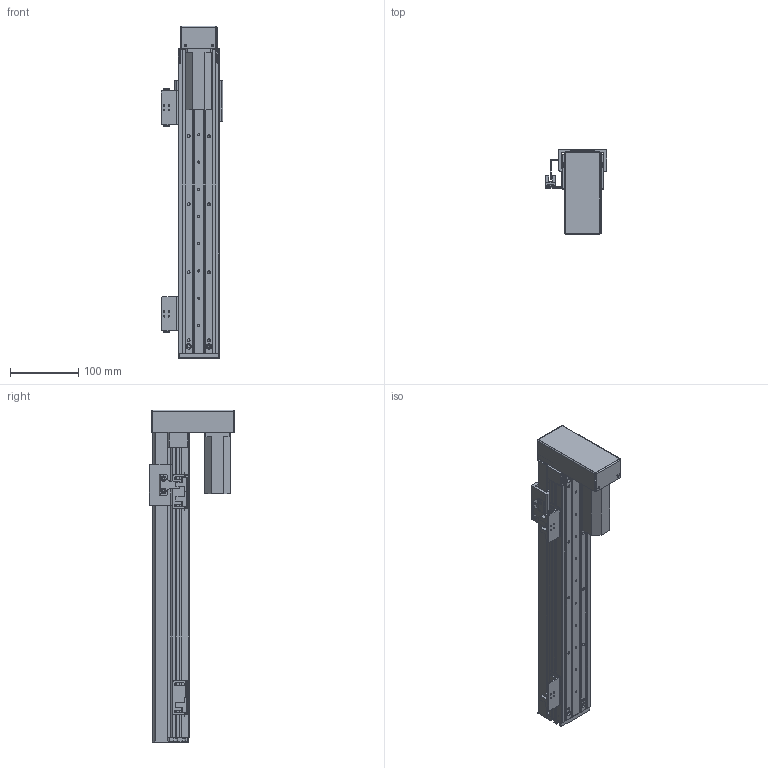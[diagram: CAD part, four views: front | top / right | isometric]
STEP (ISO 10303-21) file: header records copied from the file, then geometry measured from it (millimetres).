
FILE_DESCRIPTION (( 'STEP AP203' ), '1' );
FILE_NAME ('RY60FB-L1210-300-BK.SLDASM_300.step', '2021-02-23T00:55:13', ( '盈信电脑' ), ( '东莞市道滘镇水果街19号' ), 'SwSTEP 2.0', 'SolidWorks 2012', '' );
FILE_SCHEMA (( 'CONFIG_CONTROL_DESIGN' ));
Length unit declared in the file: millimetre
Products named in the file (15): RY60FB-L1210-300-BK.SLDASM_300; RY60FB-狟殏萇儂假蚾啣; RY60FB-蛌殏萇儂欶; RY60FB-674嫖萇耀輸; 覜茼ん674; RY60FB-感应器674光电安装座; RY60FB转折电机端支撑座; RY60FB綴裔啣; RY80俋离覜茼え; 侂狟100W; RY60FB-臏賑輸; RY60FB-蛌殏奻裔-300-BK; RY60FB-蛌殏菁釱-300-BK; 滅袉蝶18-10
Assembly tree (20 placements, depth 3):
  RY60FB-L1210-300-BK.SLDASM_300
    RY60FB-蛌殏菁釱-300-BK
    RY60FB-臏賑輸
    滅袉蝶18-10  x4
    RY60FB-蛌殏奻裔-300-BK
    侂狟100W
    RY60FB綴裔啣
    RY60FB转折电机端支撑座
    RY80俋离覜茼え
    RY60FB-674嫖萇耀輸
      RY60FB-感应器674光电安装座
      覜茼ん674  x2
    RY60FB-674嫖萇耀輸
      RY60FB-感应器674光电安装座
      覜茼ん674
    RY60FB-狟殏萇儂假蚾啣
    RY60FB-蛌殏萇儂欶
Bounding box: 90 x 125.45 x 488 mm (x, y, z)
Volume: 726085.8 mm3; surface area: 393403.4 mm2
Topology: 18 solids, 18 shells, 1081 faces, 2944 edges, 1872 vertices
Faces by surface type: plane 529, cylinder 447, cone 97, bspline 8
Entity records: 30981 total; most frequent: CARTESIAN_POINT 6045, DIRECTION 4888, ORIENTED_EDGE 4784, EDGE_CURVE 2392, AXIS2_PLACEMENT_3D 1703, VERTEX_POINT 1548, VECTOR 1482, LINE 1482
